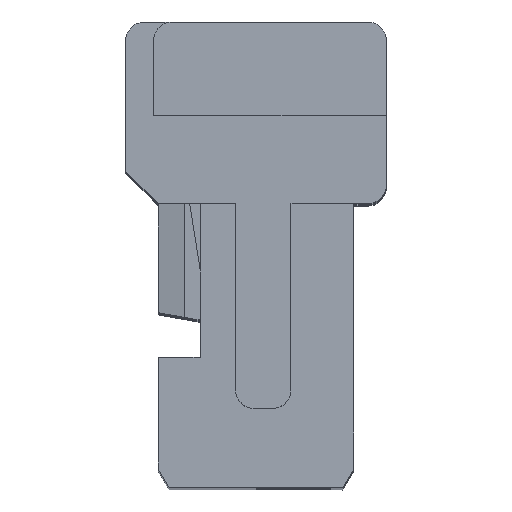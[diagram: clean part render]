
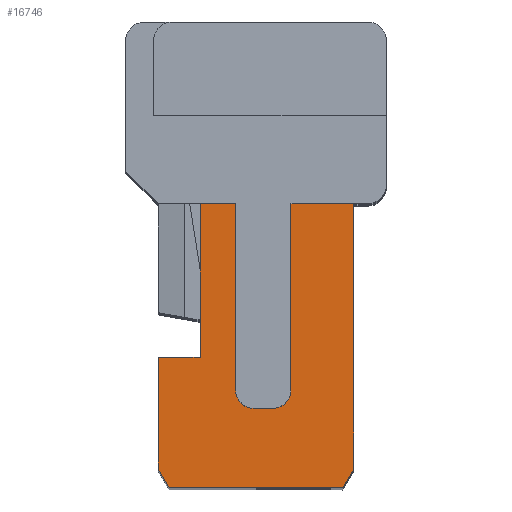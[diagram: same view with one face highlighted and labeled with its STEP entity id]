
A CAD part, top view. The second image highlights one B-rep face of the part: STEP entity #16746.
In plain terms, the highlighted planar face has unit normal (0, 0, 1).
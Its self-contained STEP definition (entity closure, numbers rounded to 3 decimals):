
#3948=DIRECTION('',(0.,-1.,0.));
#3949=VECTOR('',#3948,1.2);
#3950=CARTESIAN_POINT('',(0.35,1.4,4.29));
#3951=LINE('',#3950,#3949);
#3956=DIRECTION('',(0.,1.,0.));
#3957=VECTOR('',#3956,1.65);
#3958=CARTESIAN_POINT('',(0.8,1.4,4.29));
#3959=LINE('',#3958,#3957);
#3960=DIRECTION('',(1.,0.,0.));
#3961=VECTOR('',#3960,0.38);
#3962=CARTESIAN_POINT('',(0.8,3.05,4.29));
#3963=LINE('',#3962,#3961);
#3964=DIRECTION('',(0.,-1.,0.));
#3965=VECTOR('',#3964,2.);
#3966=CARTESIAN_POINT('',(1.18,3.05,4.29));
#3967=LINE('',#3966,#3965);
#3968=CARTESIAN_POINT('',(1.38,1.05,4.29));
#3969=DIRECTION('',(0.,0.,1.));
#3970=DIRECTION('',(-1.,0.,0.));
#3971=AXIS2_PLACEMENT_3D('',#3968,#3969,#3970);
#3973=DIRECTION('',(1.,0.,0.));
#3974=VECTOR('',#3973,0.196);
#3975=CARTESIAN_POINT('',(1.38,0.85,4.29));
#3976=LINE('',#3975,#3974);
#3977=CARTESIAN_POINT('',(1.576,1.05,4.29));
#3978=DIRECTION('',(0.,0.,1.));
#3979=DIRECTION('',(0.,-1.,0.));
#3980=AXIS2_PLACEMENT_3D('',#3977,#3978,#3979);
#3982=DIRECTION('',(0.,1.,0.));
#3983=VECTOR('',#3982,2.);
#3984=CARTESIAN_POINT('',(1.776,1.05,4.29));
#3985=LINE('',#3984,#3983);
#3986=DIRECTION('',(1.,0.,0.));
#3987=VECTOR('',#3986,0.674);
#3988=CARTESIAN_POINT('',(1.776,3.05,4.29));
#3989=LINE('',#3988,#3987);
#3990=DIRECTION('',(0.,-1.,0.));
#3991=VECTOR('',#3990,2.85);
#3992=CARTESIAN_POINT('',(2.45,3.05,4.29));
#3993=LINE('',#3992,#3991);
#3994=DIRECTION('',(-0.5,-0.866,0.));
#3995=VECTOR('',#3994,0.231);
#3996=CARTESIAN_POINT('',(2.45,0.2,4.29));
#3997=LINE('',#3996,#3995);
#3998=DIRECTION('',(-1.,0.,0.));
#3999=VECTOR('',#3998,1.869);
#4000=CARTESIAN_POINT('',(2.335,0.,4.29));
#4001=LINE('',#4000,#3999);
#4002=DIRECTION('',(-0.5,0.866,0.));
#4003=VECTOR('',#4002,0.231);
#4004=CARTESIAN_POINT('',(0.465,0.,4.29));
#4005=LINE('',#4004,#4003);
#4006=DIRECTION('',(1.,0.,0.));
#4007=VECTOR('',#4006,0.45);
#4008=CARTESIAN_POINT('',(0.35,1.4,4.29));
#4009=LINE('',#4008,#4007);
#10127=CARTESIAN_POINT('',(0.8,3.05,4.29));
#10128=VERTEX_POINT('',#10127);
#10129=CARTESIAN_POINT('',(0.8,1.4,4.29));
#10130=VERTEX_POINT('',#10129);
#10131=CARTESIAN_POINT('',(1.18,3.05,4.29));
#10132=VERTEX_POINT('',#10131);
#10133=CARTESIAN_POINT('',(1.38,0.85,4.29));
#10134=VERTEX_POINT('',#10133);
#10135=CARTESIAN_POINT('',(1.18,1.05,4.29));
#10136=VERTEX_POINT('',#10135);
#10137=CARTESIAN_POINT('',(1.776,1.05,4.29));
#10138=VERTEX_POINT('',#10137);
#10139=CARTESIAN_POINT('',(1.576,0.85,4.29));
#10140=VERTEX_POINT('',#10139);
#10141=CARTESIAN_POINT('',(1.776,3.05,4.29));
#10142=VERTEX_POINT('',#10141);
#10191=CARTESIAN_POINT('',(2.45,3.05,4.29));
#10192=VERTEX_POINT('',#10191);
#10545=CARTESIAN_POINT('',(2.45,0.2,4.29));
#10546=VERTEX_POINT('',#10545);
#10547=CARTESIAN_POINT('',(2.335,0.,4.29));
#10548=VERTEX_POINT('',#10547);
#10549=CARTESIAN_POINT('',(0.465,0.,4.29));
#10550=VERTEX_POINT('',#10549);
#10551=CARTESIAN_POINT('',(0.35,0.2,4.29));
#10552=VERTEX_POINT('',#10551);
#10553=CARTESIAN_POINT('',(0.35,1.4,4.29));
#10554=VERTEX_POINT('',#10553);
#16714=CARTESIAN_POINT('',(1.4,1.525,4.29));
#16715=DIRECTION('',(0.,0.,1.));
#16716=DIRECTION('',(1.,0.,0.));
#16717=AXIS2_PLACEMENT_3D('',#16714,#16715,#16716);
#16718=PLANE('',#16717);
#16720=ORIENTED_EDGE('',*,*,#16719,.T.);
#16722=ORIENTED_EDGE('',*,*,#16721,.T.);
#16724=ORIENTED_EDGE('',*,*,#16723,.T.);
#16726=ORIENTED_EDGE('',*,*,#16725,.T.);
#16728=ORIENTED_EDGE('',*,*,#16727,.T.);
#16730=ORIENTED_EDGE('',*,*,#16729,.T.);
#16732=ORIENTED_EDGE('',*,*,#16731,.T.);
#16734=ORIENTED_EDGE('',*,*,#16733,.T.);
#16736=ORIENTED_EDGE('',*,*,#16735,.T.);
#16738=ORIENTED_EDGE('',*,*,#16737,.T.);
#16739=ORIENTED_EDGE('',*,*,#11188,.T.);
#16741=ORIENTED_EDGE('',*,*,#16740,.T.);
#16742=ORIENTED_EDGE('',*,*,#16706,.F.);
#16743=ORIENTED_EDGE('',*,*,#11624,.T.);
#16744=EDGE_LOOP('',(#16720,#16722,#16724,#16726,#16728,#16730,#16732,#16734,
#16736,#16738,#16739,#16741,#16742,#16743));
#16745=FACE_OUTER_BOUND('',#16744,.F.);
#3972=CIRCLE('',#3971,0.2);
#3981=CIRCLE('',#3980,0.2);
#11188=EDGE_CURVE('',#10548,#10550,#4001,.T.);
#11624=EDGE_CURVE('',#10554,#10130,#4009,.T.);
#16706=EDGE_CURVE('',#10554,#10552,#3951,.T.);
#16719=EDGE_CURVE('',#10130,#10128,#3959,.T.);
#16721=EDGE_CURVE('',#10128,#10132,#3963,.T.);
#16723=EDGE_CURVE('',#10132,#10136,#3967,.T.);
#16725=EDGE_CURVE('',#10136,#10134,#3972,.T.);
#16727=EDGE_CURVE('',#10134,#10140,#3976,.T.);
#16729=EDGE_CURVE('',#10140,#10138,#3981,.T.);
#16731=EDGE_CURVE('',#10138,#10142,#3985,.T.);
#16733=EDGE_CURVE('',#10142,#10192,#3989,.T.);
#16735=EDGE_CURVE('',#10192,#10546,#3993,.T.);
#16737=EDGE_CURVE('',#10546,#10548,#3997,.T.);
#16740=EDGE_CURVE('',#10550,#10552,#4005,.T.);
#16746=ADVANCED_FACE('',(#16745),#16718,.T.);
